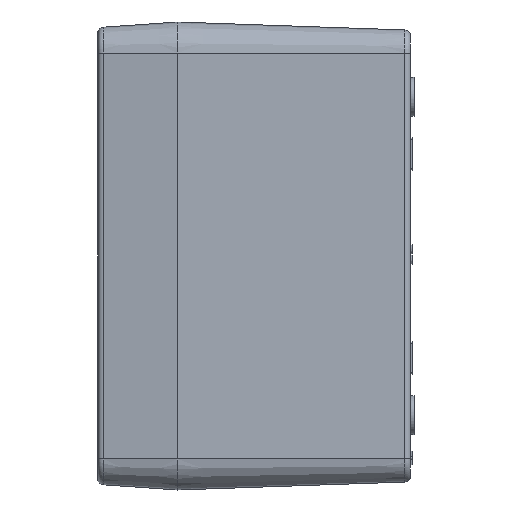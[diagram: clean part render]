
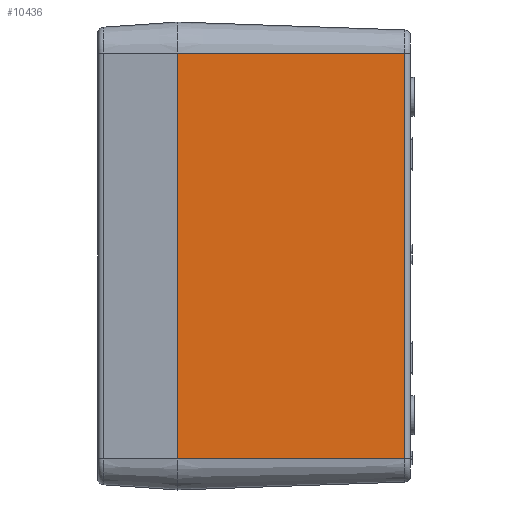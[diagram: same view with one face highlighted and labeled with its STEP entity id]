
A CAD part, left-side view. The second image highlights one B-rep face of the part: STEP entity #10436.
In plain terms, the highlighted planar face has unit normal (-0.999, -0.035, 0) as drawn and (-0.999, 0, -0.035) by its records, which use the part's own axes.
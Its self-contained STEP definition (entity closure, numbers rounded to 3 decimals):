
#1563=FACE_OUTER_BOUND('',#2275,.T.);
#2275=EDGE_LOOP('',(#8285,#8286,#8287,#8288));
#3144=LINE('',#17405,#4002);
#3146=LINE('',#17410,#4004);
#3148=LINE('',#17416,#4006);
#3149=LINE('',#17417,#4007);
#4002=VECTOR('',#13192,104.5);
#4004=VECTOR('',#13198,58.588);
#4006=VECTOR('',#13204,58.588);
#4007=VECTOR('',#13205,104.5);
#4881=VERTEX_POINT('',#17330);
#4885=VERTEX_POINT('',#17344);
#4904=VERTEX_POINT('',#17409);
#4906=VERTEX_POINT('',#17415);
#6125=EDGE_CURVE('',#4881,#4885,#3144,.T.);
#6127=EDGE_CURVE('',#4904,#4885,#3146,.T.);
#6130=EDGE_CURVE('',#4906,#4881,#3148,.T.);
#6131=EDGE_CURVE('',#4904,#4906,#3149,.T.);
#8285=ORIENTED_EDGE('',*,*,#6125,.F.);
#8286=ORIENTED_EDGE('',*,*,#6130,.F.);
#8287=ORIENTED_EDGE('',*,*,#6131,.F.);
#8288=ORIENTED_EDGE('',*,*,#6127,.T.);
#9995=PLANE('',#11184);
#10436=ADVANCED_FACE('',(#1563),#9995,.T.);
#11184=AXIS2_PLACEMENT_3D('',#17414,#13202,#13203);
#13192=DIRECTION('',(0.,1.,0.));
#13198=DIRECTION('',(0.035,0.,-0.999));
#13202=DIRECTION('center_axis',(-0.999,0.,-0.035));
#13203=DIRECTION('ref_axis',(0.,1.,0.));
#13204=DIRECTION('',(0.035,0.,-0.999));
#13205=DIRECTION('',(0.,-1.,0.));
#17330=CARTESIAN_POINT('',(-108.455,-52.25,-58.552));
#17344=CARTESIAN_POINT('',(-108.455,52.25,-58.552));
#17405=CARTESIAN_POINT('',(-108.455,26.125,-58.552));
#17409=CARTESIAN_POINT('',(-110.5,52.25,0.));
#17410=CARTESIAN_POINT('',(-110.5,52.25,0.));
#17414=CARTESIAN_POINT('Origin',(-110.5,52.25,0.));
#17415=CARTESIAN_POINT('',(-110.5,-52.25,0.));
#17416=CARTESIAN_POINT('',(-110.5,-52.25,0.));
#17417=CARTESIAN_POINT('',(-110.5,52.25,0.));
